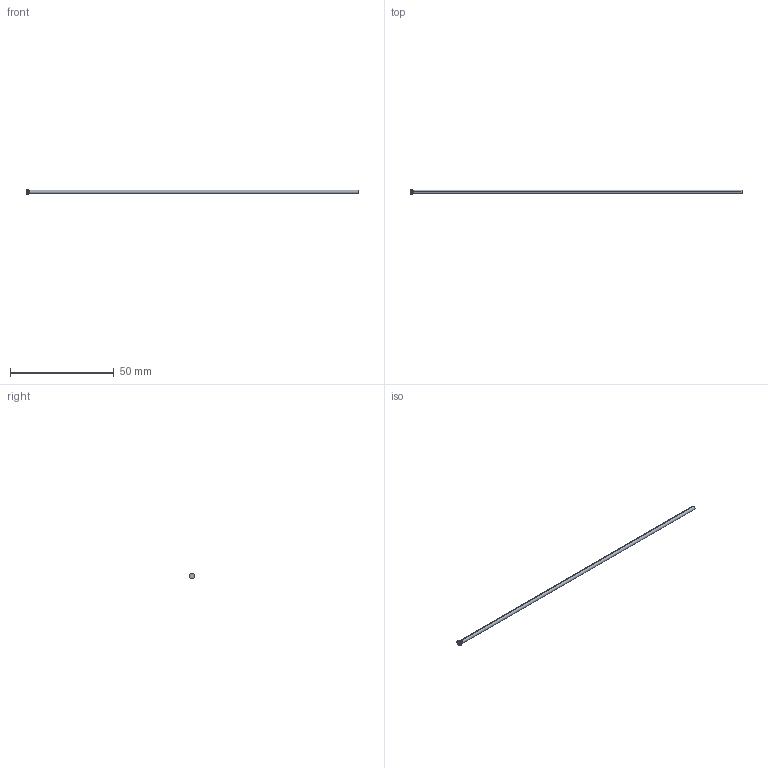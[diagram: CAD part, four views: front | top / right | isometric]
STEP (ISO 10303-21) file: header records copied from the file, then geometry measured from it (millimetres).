
FILE_DESCRIPTION (( 'STEP AP214' ), '1' );
FILE_NAME ('D-1,75x160.STEP', '2020-06-08T09:48:26', ( 'August' ), ( '' ), 'SwSTEP 2.0', 'SolidWorks 2018', '' );
FILE_SCHEMA (( 'AUTOMOTIVE_DESIGN' ));
Length unit declared in the file: millimetre
Products named in the file (1): D-1,75x160
Bounding box: 160 x 2.8 x 2.8 mm (x, y, z)
Volume: 388.3 mm3; surface area: 892.3 mm2
Topology: 1 solids, 1 shells, 10 faces, 18 edges, 10 vertices
Faces by surface type: cylinder 4, torus 2, cone 2, plane 2
Entity records: 280 total; most frequent: DIRECTION 52, CARTESIAN_POINT 39, ORIENTED_EDGE 36, AXIS2_PLACEMENT_3D 23, EDGE_CURVE 18, CIRCLE 12, FACE_OUTER_BOUND 10, EDGE_LOOP 10
